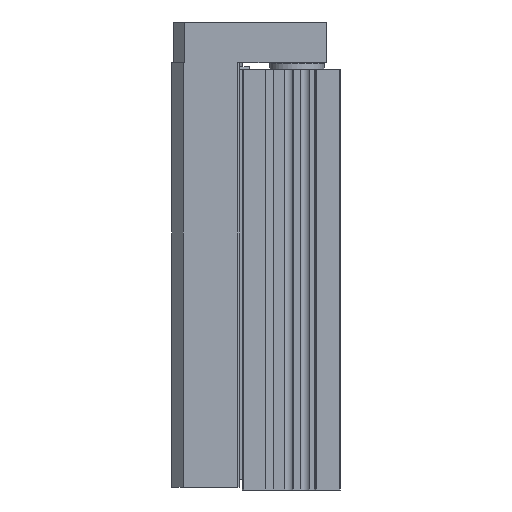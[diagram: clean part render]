
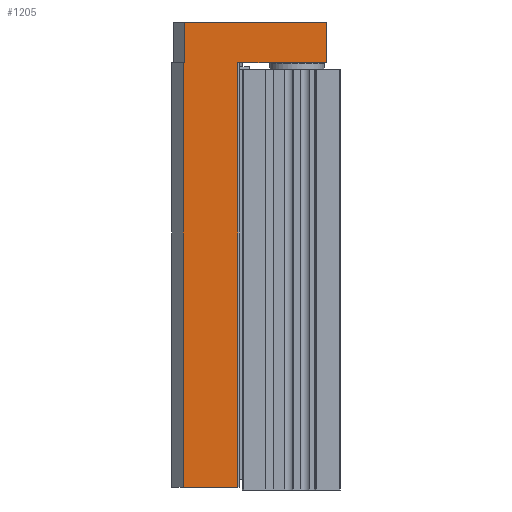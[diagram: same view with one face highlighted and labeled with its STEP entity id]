
A CAD part, left-side view. The second image highlights one B-rep face of the part: STEP entity #1205.
In plain terms, the highlighted planar face has unit normal (-1, 0, 0).
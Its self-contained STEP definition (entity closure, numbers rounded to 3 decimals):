
#1205 = ADVANCED_FACE( '', ( #2765 ), #2766, .T. );
#2765 = FACE_OUTER_BOUND( '', #4730, .T. );
#2766 = PLANE( '', #4731 );
#4730 = EDGE_LOOP( '', ( #8025, #8026, #8027, #8028, #8029, #8030, #8031, #8032 ) );
#4731 = AXIS2_PLACEMENT_3D( '', #8033, #8034, #8035 );
#8025 = ORIENTED_EDGE( '', *, *, #11687, .F. );
#8026 = ORIENTED_EDGE( '', *, *, #11578, .F. );
#8027 = ORIENTED_EDGE( '', *, *, #10720, .T. );
#8028 = ORIENTED_EDGE( '', *, *, #11688, .T. );
#8029 = ORIENTED_EDGE( '', *, *, #11689, .T. );
#8030 = ORIENTED_EDGE( '', *, *, #11564, .F. );
#8031 = ORIENTED_EDGE( '', *, *, #11690, .F. );
#8032 = ORIENTED_EDGE( '', *, *, #10661, .T. );
#8033 = CARTESIAN_POINT( '', ( -43., 57.76, -156. ) );
#8034 = DIRECTION( '', ( -1., 0., 0. ) );
#8035 = DIRECTION( '', ( 0., 0., 1. ) );
#10661 = EDGE_CURVE( '', #12584, #12582, #12585, .T. );
#10720 = EDGE_CURVE( '', #12653, #12687, #12689, .T. );
#11564 = EDGE_CURVE( '', #14058, #14060, #14061, .T. );
#11578 = EDGE_CURVE( '', #12653, #14080, #14083, .T. );
#11687 = EDGE_CURVE( '', #14080, #12582, #14238, .T. );
#11688 = EDGE_CURVE( '', #12687, #14239, #14240, .T. );
#11689 = EDGE_CURVE( '', #14239, #14060, #14241, .T. );
#11690 = EDGE_CURVE( '', #12584, #14058, #14242, .T. );
#12582 = VERTEX_POINT( '', #15373 );
#12584 = VERTEX_POINT( '', #15376 );
#12585 = LINE( '', #15377, #15378 );
#12653 = VERTEX_POINT( '', #15467 );
#12687 = VERTEX_POINT( '', #15519 );
#12689 = LINE( '', #15522, #15523 );
#14058 = VERTEX_POINT( '', #17393 );
#14060 = VERTEX_POINT( '', #17396 );
#14061 = LINE( '', #17397, #17398 );
#14080 = VERTEX_POINT( '', #17427 );
#14083 = LINE( '', #17432, #17433 );
#14238 = LINE( '', #17637, #17638 );
#14239 = VERTEX_POINT( '', #17639 );
#14240 = LINE( '', #17640, #17641 );
#14241 = LINE( '', #17642, #17643 );
#14242 = LINE( '', #17644, #17645 );
#15373 = CARTESIAN_POINT( '', ( -43., 57.26, 0. ) );
#15376 = CARTESIAN_POINT( '', ( -43., 57.26, 15. ) );
#15377 = CARTESIAN_POINT( '', ( -43., 57.26, 15. ) );
#15378 = VECTOR( '', #18834, 1000. );
#15467 = CARTESIAN_POINT( '', ( -43., 57.76, -156. ) );
#15519 = CARTESIAN_POINT( '', ( -43., 37.7, -156. ) );
#15522 = CARTESIAN_POINT( '', ( -43., 57.76, -156. ) );
#15523 = VECTOR( '', #18899, 1000. );
#17393 = CARTESIAN_POINT( '', ( -43., 5., 15. ) );
#17396 = CARTESIAN_POINT( '', ( -43., 5., 0. ) );
#17397 = CARTESIAN_POINT( '', ( -43., 5., 15. ) );
#17398 = VECTOR( '', #19852, 1000. );
#17427 = CARTESIAN_POINT( '', ( -43., 57.76, 0. ) );
#17432 = CARTESIAN_POINT( '', ( -43., 57.76, -156. ) );
#17433 = VECTOR( '', #19865, 1000. );
#17637 = CARTESIAN_POINT( '', ( -43., 57.76, 0. ) );
#17638 = VECTOR( '', #19981, 1000. );
#17639 = CARTESIAN_POINT( '', ( -43., 37.7, 0. ) );
#17640 = CARTESIAN_POINT( '', ( -43., 37.7, -156. ) );
#17641 = VECTOR( '', #19982, 1000. );
#17642 = CARTESIAN_POINT( '', ( -43., 57.26, 0. ) );
#17643 = VECTOR( '', #19983, 1000. );
#17644 = CARTESIAN_POINT( '', ( -43., 57.26, 15. ) );
#17645 = VECTOR( '', #19984, 1000. );
#18834 = DIRECTION( '', ( 0., 0., -1. ) );
#18899 = DIRECTION( '', ( 0., -1., 0. ) );
#19852 = DIRECTION( '', ( 0., 0., -1. ) );
#19865 = DIRECTION( '', ( 0., 0., 1. ) );
#19981 = DIRECTION( '', ( 0., -1., 0. ) );
#19982 = DIRECTION( '', ( 0., 0., 1. ) );
#19983 = DIRECTION( '', ( 0., -1., 0. ) );
#19984 = DIRECTION( '', ( 0., -1., 0. ) );
